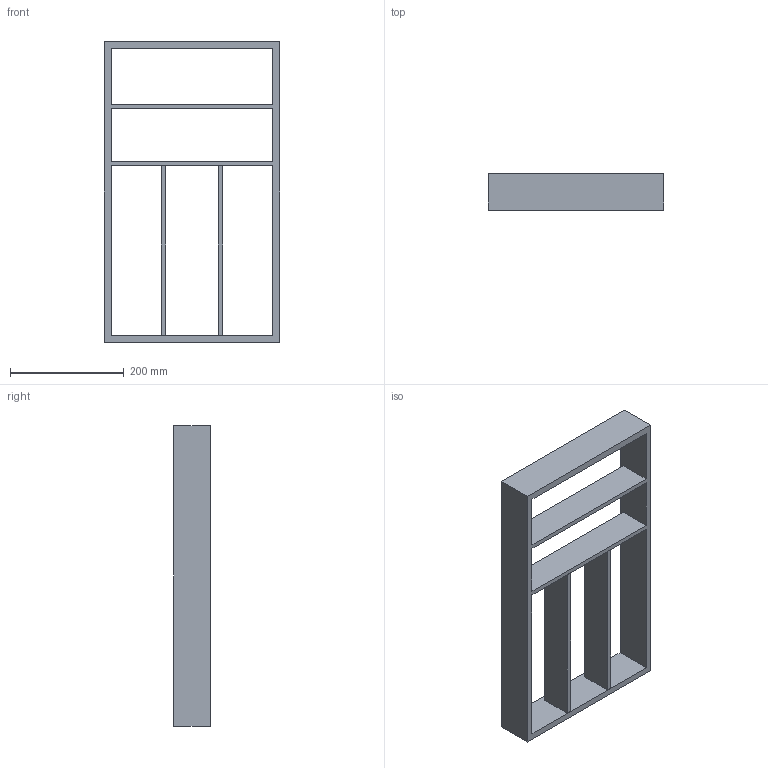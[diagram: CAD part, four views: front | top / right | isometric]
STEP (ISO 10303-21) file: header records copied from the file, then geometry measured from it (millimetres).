
FILE_DESCRIPTION (( 'STEP AP214' ), '1' );
FILE_NAME ('Vario Besteck NL550_B400_16 mm_Alu.step', '2010-11-04T08:33:14', ( 'grass' ), ( '' ), 'SwSTEP 2.0', 'SolidWorks 2010', '' );
FILE_SCHEMA (( 'AUTOMOTIVE_DESIGN' ));
Length unit declared in the file: millimetre
Products named in the file (1): Vario Besteck NL550_B400_16 mm_Alu
Bounding box: 308 x 65 x 529 mm (x, y, z)
Volume: 1799976 mm3; surface area: 401984 mm2
Topology: 3 solids, 3 shells, 28 faces, 72 edges, 48 vertices
Faces by surface type: plane 28
Entity records: 900 total; most frequent: CARTESIAN_POINT 149, ORIENTED_EDGE 144, DIRECTION 130, EDGE_CURVE 72, LINE 72, VECTOR 72, VERTEX_POINT 48, EDGE_LOOP 32
